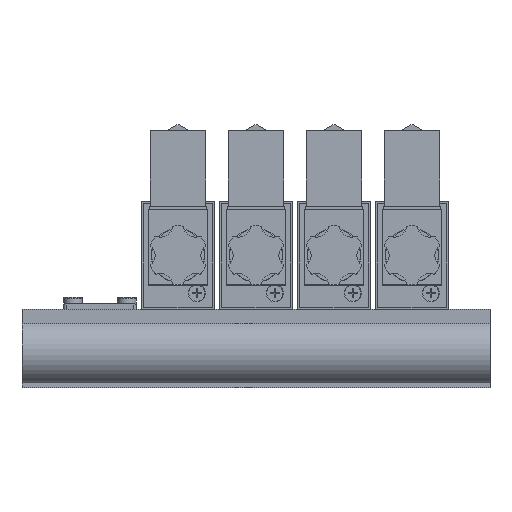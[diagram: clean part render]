
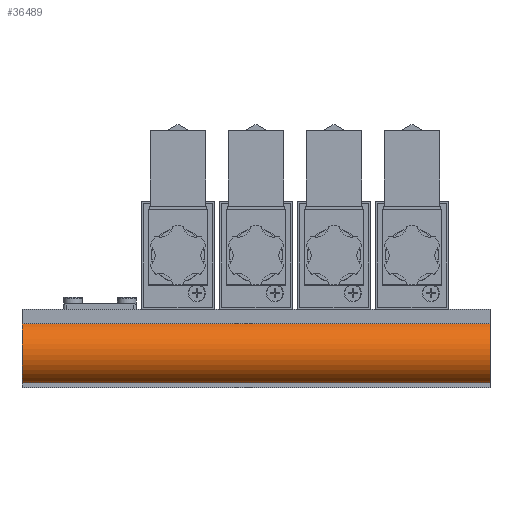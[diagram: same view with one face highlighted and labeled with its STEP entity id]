
A CAD part, top view. The second image highlights one B-rep face of the part: STEP entity #36489.
In plain terms, the highlighted cylindrical face has radius 12 mm (diameter 24 mm), a partial arc.
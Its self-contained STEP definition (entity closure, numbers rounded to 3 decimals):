
#1013 = AXIS2_PLACEMENT_3D ( 'NONE', #15909, #36038, #18836 ) ;
#2741 = CYLINDRICAL_SURFACE ( 'NONE', #36102, 12. ) ;
#2881 = FACE_OUTER_BOUND ( 'NONE', #17425, .T. ) ;
#3668 = VERTEX_POINT ( 'NONE', #25183 ) ;
#5403 = VERTEX_POINT ( 'NONE', #11052 ) ;
#7597 = VERTEX_POINT ( 'NONE', #22063 ) ;
#11052 = CARTESIAN_POINT ( 'NONE',  ( 87., 23.665, 33.5 ) ) ;
#11791 = CARTESIAN_POINT ( 'NONE',  ( 87., 13., 28. ) ) ;
#12820 = EDGE_CURVE ( 'NONE', #7597, #3668, #21948, .T. ) ;
#13756 = ORIENTED_EDGE ( 'NONE', *, *, #30446, .T. ) ;
#14694 = DIRECTION ( 'NONE',  ( 0., 0., -1. ) ) ;
#15620 = CARTESIAN_POINT ( 'NONE',  ( 87., 1.686, 32. ) ) ;
#15718 = DIRECTION ( 'NONE',  ( -1., 0., 0. ) ) ;
#15909 = CARTESIAN_POINT ( 'NONE',  ( -87., 13., 28. ) ) ;
#16503 = ORIENTED_EDGE ( 'NONE', *, *, #12820, .F. ) ;
#17421 = CARTESIAN_POINT ( 'NONE',  ( 87., 23.665, 33.5 ) ) ;
#17425 = EDGE_LOOP ( 'NONE', ( #18810, #16503, #29802, #13756 ) ) ;
#17969 = VECTOR ( 'NONE', #26330, 1000. ) ;
#18810 = ORIENTED_EDGE ( 'NONE', *, *, #23715, .T. ) ;
#18836 = DIRECTION ( 'NONE',  ( 0., 0., -1. ) ) ;
#18959 = EDGE_CURVE ( 'NONE', #5403, #7597, #26193, .T. ) ;
#21546 = VECTOR ( 'NONE', #15718, 1000. ) ;
#21948 = LINE ( 'NONE', #15620, #21546 ) ;
#22063 = CARTESIAN_POINT ( 'NONE',  ( 87., 1.686, 32. ) ) ;
#23715 = EDGE_CURVE ( 'NONE', #26627, #3668, #31166, .T. ) ;
#25183 = CARTESIAN_POINT ( 'NONE',  ( -87., 1.686, 32. ) ) ;
#25456 = CARTESIAN_POINT ( 'NONE',  ( -87., 23.665, 33.5 ) ) ;
#26193 = CIRCLE ( 'NONE', #29931, 12. ) ;
#26330 = DIRECTION ( 'NONE',  ( -1., 0., 0. ) ) ;
#26568 = DIRECTION ( 'NONE',  ( 0., 0., 1. ) ) ;
#26627 = VERTEX_POINT ( 'NONE', #25456 ) ;
#29371 = CARTESIAN_POINT ( 'NONE',  ( 87., 13., 28. ) ) ;
#29504 = DIRECTION ( 'NONE',  ( -1., 0., 0. ) ) ;
#29802 = ORIENTED_EDGE ( 'NONE', *, *, #18959, .F. ) ;
#29931 = AXIS2_PLACEMENT_3D ( 'NONE', #11791, #32155, #14694 ) ;
#30446 = EDGE_CURVE ( 'NONE', #5403, #26627, #32878, .T. ) ;
#31166 = CIRCLE ( 'NONE', #1013, 12. ) ;
#32155 = DIRECTION ( 'NONE',  ( 1., 0., 0. ) ) ;
#32878 = LINE ( 'NONE', #17421, #17969 ) ;
#36038 = DIRECTION ( 'NONE',  ( 1., 0., 0. ) ) ;
#36102 = AXIS2_PLACEMENT_3D ( 'NONE', #29371, #29504, #26568 ) ;
#36489 = ADVANCED_FACE ( 'NONE', ( #2881 ), #2741, .T. ) ;
